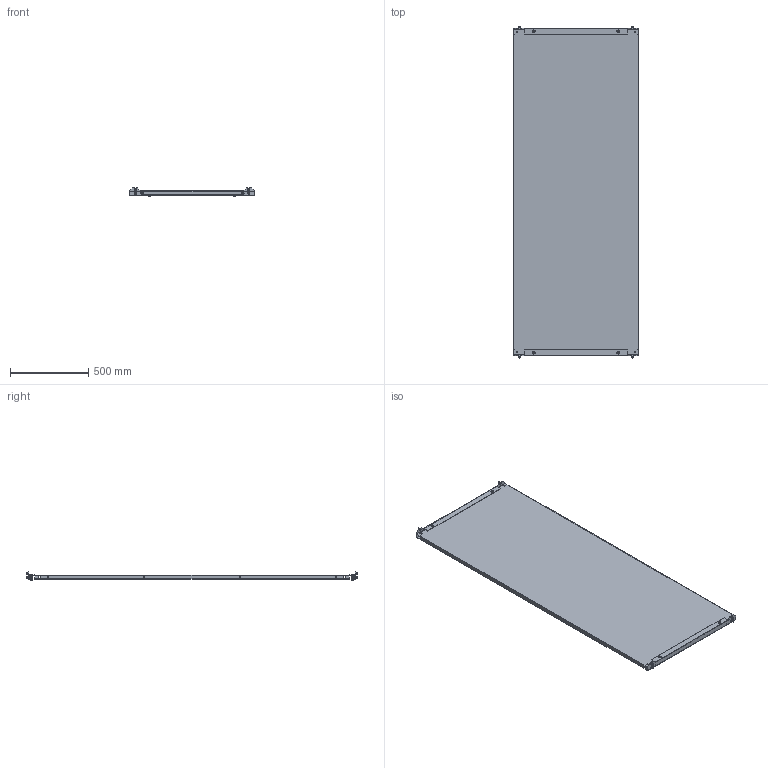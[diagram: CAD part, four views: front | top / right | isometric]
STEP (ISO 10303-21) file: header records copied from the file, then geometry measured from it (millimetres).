
FILE_DESCRIPTION(('Open CASCADE Model'),'2;1');
FILE_NAME('Open CASCADE Shape Model','2025-02-13T16:49:49',('Author'),( 'Open CASCADE'),'Open CASCADE STEP processor 7.8','Open CASCADE 7.8' ,'Unknown');
FILE_SCHEMA(('AUTOMOTIVE_DESIGN { 1 0 10303 214 1 1 1 1 }'));
Length unit declared in the file: millimetre
Products named in the file (11): Compound1; Solid1; Compound2; Solid2; Solid3; Solid4; Solid5; Solid6; Solid7; Solid8; Solid9
Assembly tree (38 placements, depth 3):
  Compound1
    Solid1
    Compound2  x2
      Solid2
      Solid3
    Solid4  x4
    Solid5  x4
    Solid6  x4
    Solid7  x4
    Solid8  x8
    Solid9  x8
Bounding box: 800 x 2126 x 55.3 mm (x, y, z)
Volume: 5089516.8 mm3; surface area: 4106333.1 mm2
Topology: 39 solids, 39 shells, 2692 faces, 7206 edges, 4528 vertices
Faces by surface type: plane 1298, cylinder 730, bspline 304, cone 228, torus 128, sphere 4
Full cylindrical faces by diameter (mm): 5 x12, 6 x16, 6.5 x8, 6.8 x32, 8 x4, 8.3 x8, 8.4 x4, 9.5 x8, 10.1 x4, 10.44 x4, 10.5 x4, 11.57 x8, 12 x4, 12.65 x4, 16 x12, 16.55 x4
Entity records: 23066 total; most frequent: CARTESIAN_POINT 6118, ORIENTED_EDGE 3604, DIRECTION 3274, EDGE_CURVE 1802, VERTEX_POINT 1154, LINE 1150, VECTOR 1150, AXIS2_PLACEMENT_3D 1062
